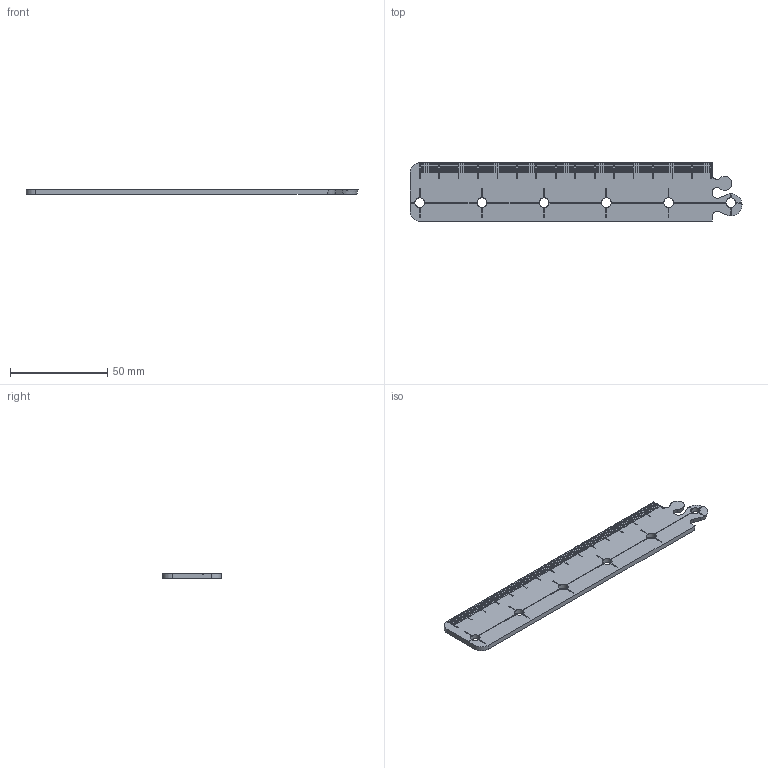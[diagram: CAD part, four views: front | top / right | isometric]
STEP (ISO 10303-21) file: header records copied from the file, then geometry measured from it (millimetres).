
FILE_DESCRIPTION(('CATIA V5 STEP','CAx-IF Rec.Pracs.--- Model Styling and Organization---1.5--- 2016-08-15','CAx-IF Rec.Pracs.---Supplemental Geometry---1.0---2011-11-01','CAx-IF Rec.Pracs.--- Composite Materials ---1.1---2010-07-15'),'2;1');
FILE_NAME('P:\Pu2kue\Küchensysteme\System wertig\König\KICKBOX\3D-Druck Modelle\Schablone Lochreihe 32er 2.stp','2022-08-11T13:02:15+00:00',('none'),('none'),'CATIA Version 5-6 Release 2020 SP4','CATIA V5 STEP AP214 v2','none');
FILE_SCHEMA(('AUTOMOTIVE_DESIGN { 1 0 10303 214 1 1 1 1 }'));
Length unit declared in the file: millimetre
Products named in the file (1): Griffschablone_Lineal
Bounding box: 170.77 x 30 x 2.5 mm (x, y, z)
Volume: 11599.4 mm3; surface area: 11481.4 mm2
Topology: 1 solids, 1 shells, 706 faces, 2155 edges, 1449 vertices
Faces by surface type: plane 684, cylinder 16, cone 6
Entity records: 23366 total; most frequent: CARTESIAN_POINT 6449, ORIENTED_EDGE 4304, DIRECTION 2332, EDGE_CURVE 2152, VECTOR 1550, LINE 1550, VERTEX_POINT 1442, EDGE_LOOP 712
